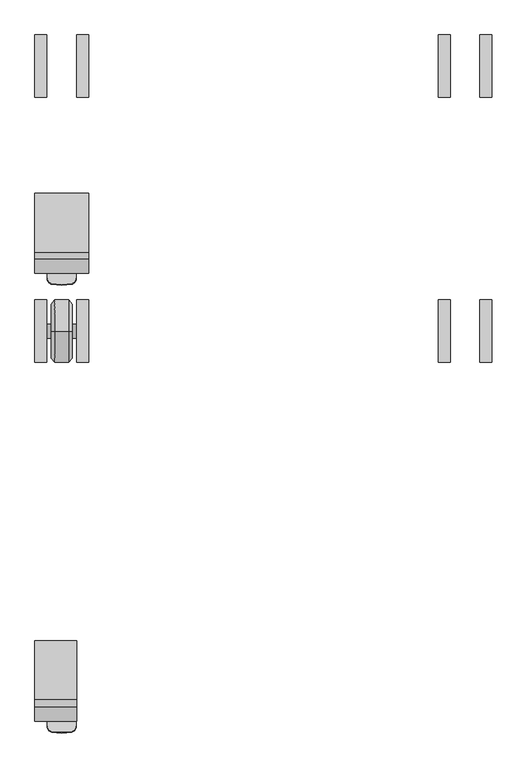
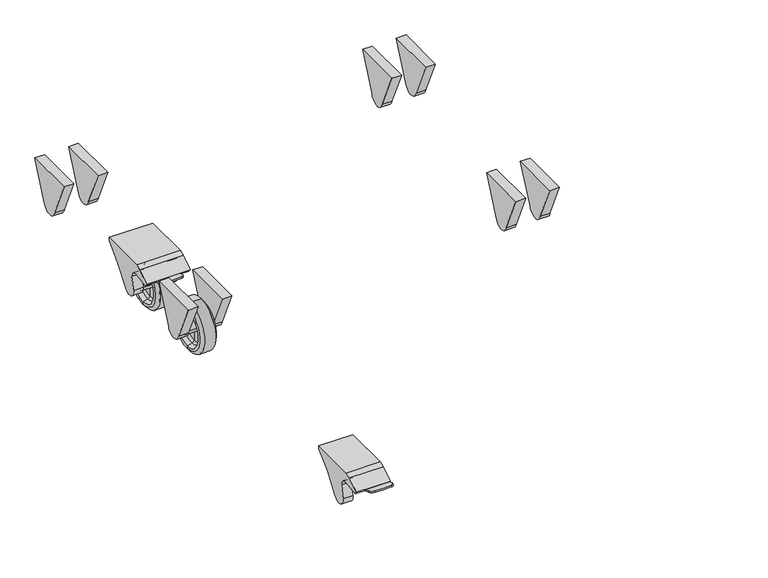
"""IFC4 building model written with IfcOpenShell, lengths in millimetres: proxy geometry, 12290890_D_APDR024 : 59520024_D_12290890_APDR024."""

from ifc_helpers import new_model, si_unit, point, frame, frame_2d, origin, place, context, project, spatial, polyline, circle_curve, trimmed, segment, composite_curve, outline, extrude, source, transform, mapped, element, save
from ifc_brep_helpers import plane_surface, cylinder_surface, revolved_surface, advanced_brep


def specialty_equipment_f7a40d9e(model_context):
    return source(origin(), model_context, "Body", "SolidModel", [
        advanced_brep(
        [(-289.9642929, -347.1593715, 51.6918031), (-289.9642929, -341.6414959, 77.0928632), (-289.9642929, -354.7414538, 90.1928212), (-289.9642929, -386.1982865, 85.2105484), (-289.9642929, -388.1697808, 88.0261341), (-289.9642929, -366.1477136, 103.4461516), (-289.9642929, -357.4336635, 106.8022751), (-289.9642929, -265.9784481, 106.8022751), (-289.9642929, -265.9784481, 103.8698945), (-289.9642929, -319.6057886, 43.2039892), (-271.3709958, -347.1593715, 51.6918031), (-271.3709958, -319.6057886, 43.2039892), (-271.3709958, -265.9784481, 103.8698945), (-271.3709958, -265.9784481, 109.7698948), (-271.3709958, -357.4336635, 109.7698948), (-271.3709958, -367.7580161, 106.5146464), (-271.3709958, -390.1412751, 90.8417198), (-271.3709958, -386.1982865, 85.2105484), (-271.3709958, -354.7414538, 90.1928212), (-271.3709958, -341.6414959, 77.0928632), (-336.0364395, -347.1593715, 51.6918031), (-336.0364395, -319.6057886, 43.2039892), (-336.0364395, -265.9784481, 103.8698945), (-336.0364395, -265.9784481, 106.8022751), (-336.0364395, -357.4336635, 106.8022751), (-336.0364395, -366.1477136, 103.4461516), (-336.0364395, -388.1697808, 88.0261341), (-336.0364395, -386.1982865, 85.2105484), (-336.0364395, -354.7414538, 90.1928212), (-336.0364395, -341.6414959, 77.0928632), (-354.6297366, -347.1593715, 51.6918031), (-354.6297366, -341.6414959, 77.0928632), (-354.6297366, -354.7414538, 90.1928212), (-354.6297366, -386.1982865, 85.2105484), (-354.6297366, -390.1412751, 90.8417198), (-354.6297366, -367.7580161, 106.5146464), (-354.6297366, -357.4336635, 109.7698948), (-354.6297366, -265.9784481, 109.7698948), (-354.6297366, -265.9784481, 103.8698945), (-354.6297366, -319.6057886, 43.2039892), (-335.625407, -388.1697808, 88.0261341), (-335.625407, -389.0890556, 89.3389944), (-290.3753254, -389.0890556, 89.3389944), (-290.3753254, -388.1697808, 88.0261341), (-290.3753254, -387.2159319, 88.6940263), (-335.625407, -387.2159319, 88.6940263), (-290.3753254, -385.1378045, 87.9784696), (-335.625407, -385.1378045, 87.9784696), (-335.625407, -397.8912563, 92.3698352), (-328.5812322, -406.1821139, 95.2246064), (-297.4195002, -406.1821139, 95.2246064), (-290.3753254, -397.8912563, 92.3698352), (-290.3753254, -386.0846805, 85.2285418), (-290.3753254, -398.8381324, 89.6199074), (-297.4195002, -407.12899, 92.4746786), (-328.5812322, -407.12899, 92.4746786), (-335.625407, -398.8381324, 89.6199074), (-335.625407, -386.0846805, 85.2285418)],
        [
            (0, 1),
            (1, 2, circle_curve(frame((-289.9642929, -354.7414538, 77.0928632), z_axis=(1.0, 0.0, 0.0), x_axis=(0.0, 1.0, 0.0)), 13.099958)),
            (2, 3),
            (3, 4),
            (4, 5),
            (5, 6),
            (6, 7),
            (7, 8),
            (8, 9, circle_curve(frame((-289.9642929, -117.0423932, -81.8219916), z_axis=(1.0, 0.0, 0.0), x_axis=(0.0, 1.0, 0.0)), 238.0408054)),
            (9, 0, circle_curve(frame((-289.9642929, -332.79453, 49.3568547), z_axis=(-1.0, 0.0, 0.0), x_axis=(0.0, 1.0, 0.0)), 14.5533726)),
            (10, 11, circle_curve(frame((-271.3709958, -332.79453, 49.3568547), z_axis=(1.0, 0.0, 0.0), x_axis=(0.0, 1.0, 0.0)), 14.5533726)),
            (11, 12, circle_curve(frame((-271.3709958, -117.0423932, -81.8219916), z_axis=(-1.0, 0.0, 0.0), x_axis=(0.0, 1.0, 0.0)), 238.0408054)),
            (12, 13),
            (13, 14),
            (14, 15),
            (15, 16),
            (16, 17),
            (17, 18),
            (18, 19, circle_curve(frame((-271.3709958, -354.7414538, 77.0928632), z_axis=(-1.0, 0.0, 0.0), x_axis=(0.0, 1.0, 0.0)), 13.099958)),
            (19, 10),
            (9, 11),
            (10, 0),
            (8, 12),
            (2, 18),
            (17, 3),
            (1, 19),
            (20, 21, circle_curve(frame((-336.0364395, -332.79453, 49.3568547), z_axis=(1.0, 0.0, 0.0), x_axis=(0.0, 1.0, 0.0)), 14.5533726)),
            (21, 22, circle_curve(frame((-336.0364395, -117.0423932, -81.8219916), z_axis=(-1.0, 0.0, 0.0), x_axis=(0.0, 1.0, 0.0)), 238.0408054)),
            (22, 23),
            (23, 24),
            (24, 25),
            (25, 26),
            (26, 27),
            (27, 28),
            (28, 29, circle_curve(frame((-336.0364395, -354.7414538, 77.0928632), z_axis=(-1.0, 0.0, 0.0), x_axis=(0.0, 1.0, 0.0)), 13.099958)),
            (29, 20),
            (30, 31),
            (31, 32, circle_curve(frame((-354.6297366, -354.7414538, 77.0928632), z_axis=(1.0, 0.0, 0.0), x_axis=(0.0, 1.0, 0.0)), 13.099958)),
            (32, 33),
            (33, 34),
            (34, 35),
            (35, 36),
            (36, 37),
            (37, 38),
            (38, 39, circle_curve(frame((-354.6297366, -117.0423932, -81.8219916), z_axis=(1.0, 0.0, 0.0), x_axis=(0.0, 1.0, 0.0)), 238.0408054)),
            (39, 30, circle_curve(frame((-354.6297366, -332.79453, 49.3568547), z_axis=(-1.0, 0.0, 0.0), x_axis=(0.0, 1.0, 0.0)), 14.5533726)),
            (20, 30),
            (39, 21),
            (38, 22),
            (37, 13),
            (7, 23),
            (36, 14),
            (35, 15),
            (34, 16),
            (33, 27),
            (26, 40),
            (40, 41),
            (41, 42),
            (42, 43),
            (43, 4),
            (32, 28),
            (31, 29),
            (25, 5),
            (43, 44),
            (44, 45),
            (45, 40),
            (24, 6),
            (46, 47),
            (47, 45),
            (44, 46),
            (48, 49, circle_curve(frame((-326.6457578, -397.8912563, 92.3698352), z_axis=(0.0, 0.3255681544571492, 0.9455185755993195), x_axis=(1.0, 0.0, 0.0)), 8.9796492)),
            (49, 50, circle_curve(frame((-313.0003662, -319.8083237, 65.4837254), z_axis=(0.0, 0.3255681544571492, 0.9455185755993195), x_axis=(1.0, 0.0, 0.0)), 92.6699251)),
            (50, 51, circle_curve(frame((-299.3549746, -397.8912563, 92.3698352), z_axis=(0.0, 0.3255681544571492, 0.9455185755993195), x_axis=(1.0, 0.0, 0.0)), 8.9796492)),
            (51, 42),
            (41, 48),
            (52, 53),
            (53, 54, circle_curve(frame((-299.3549746, -398.8381324, 89.6199074), z_axis=(0.0, -0.3255681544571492, -0.9455185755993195), x_axis=(1.0, 0.0, 0.0)), 8.9796492)),
            (54, 55, circle_curve(frame((-313.0003662, -320.7551998, 62.7337976), z_axis=(0.0, -0.3255681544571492, -0.9455185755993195), x_axis=(1.0, 0.0, 0.0)), 92.6699251)),
            (55, 56, circle_curve(frame((-326.6457578, -398.8381324, 89.6199074), z_axis=(0.0, -0.3255681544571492, -0.9455185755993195), x_axis=(1.0, 0.0, 0.0)), 8.9796492)),
            (56, 57),
            (57, 52),
            (46, 52),
            (57, 47),
            (56, 48),
            (55, 49),
            (54, 50),
            (53, 51),
        ],
        [
            plane_surface(frame((-289.9642929, -341.6414959, 77.0928632), z_axis=(-1.0, 0.0, 0.0), x_axis=(0.0, 0.21227925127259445, 0.9772090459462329))),
            plane_surface(frame((-271.3709958, -341.6414959, 77.0928632), z_axis=(1.0, 0.0, 0.0), x_axis=(0.0, -0.21227925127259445, -0.9772090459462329))),
            cylinder_surface(frame((-271.3709958, -332.79453, 49.3568547), z_axis=(-1.0, 0.0, 0.0), x_axis=(0.0, 1.0, 0.0)), 14.5533726),
            revolved_surface(polyline([(-271.3709958, 120.9984122, -81.8219916), (-289.9642929, 120.9984122, -81.8219916)]), (-271.3709958, -117.0423932, -81.8219916), (1.0, 0.0, 0.0)),
            plane_surface(frame((-289.9642929, -354.7414538, 90.1928212), z_axis=(0.0, 0.1564344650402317, -0.9876883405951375), x_axis=(1.0, 0.0, 0.0))),
            revolved_surface(polyline([(-271.3709958, -341.6414958, 77.0928632), (-289.9642929, -341.6414958, 77.0928632)]), (-271.3709958, -354.7414538, 77.0928632), (1.0, 0.0, 0.0)),
            plane_surface(frame((-289.9642929, -347.1593715, 51.6918031), z_axis=(0.0, -0.9772090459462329, 0.21227925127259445), x_axis=(1.0, 0.0, 0.0))),
            plane_surface(frame((-336.0364395, -318.2411574, 49.3568547), z_axis=(1.0, 0.0, 0.0), x_axis=(0.0, 0.0, 1.0))),
            plane_surface(frame((-354.6297366, -318.2411574, 49.3568547), z_axis=(-1.0, 0.0, 0.0), x_axis=(0.0, 0.0, -1.0))),
            cylinder_surface(frame((-354.6297366, -332.79453, 49.3568547), z_axis=(1.0, 0.0, 0.0), x_axis=(0.0, 1.0, 0.0)), 14.5533726),
            revolved_surface(polyline([(-354.6297366, 120.9984122, -81.8219916), (-336.0364395, 120.9984122, -81.8219916)]), (-354.6297366, -117.0423932, -81.8219916), (-1.0, 0.0, 0.0)),
            plane_surface(frame((-336.0364395, -265.9784481, 103.8698945), z_axis=(0.0, 1.0, 0.0), x_axis=(-1.0, 0.0, 0.0))),
            plane_surface(frame((-336.0364395, -265.9784481, 109.7698948), z_axis=(0.0, 0.0, 1.0), x_axis=(-1.0, 0.0, 0.0))),
            plane_surface(frame((-336.0364395, -357.4336635, 109.7698948), z_axis=(0.0, -0.30070516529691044, 0.9537171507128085), x_axis=(-1.0, 0.0, 0.0))),
            plane_surface(frame((-336.0364395, -367.7580161, 106.5146464), z_axis=(0.0, -0.5735764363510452, 0.8191520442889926), x_axis=(-1.0, 0.0, 0.0))),
            plane_surface(frame((-336.0364395, -390.1412751, 90.8417198), z_axis=(0.0, -0.8191520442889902, -0.5735764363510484), x_axis=(-1.0, 0.0, 0.0))),
            plane_surface(frame((-336.0364395, -386.1982865, 85.2105484), z_axis=(0.0, 0.1564344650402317, -0.9876883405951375), x_axis=(-1.0, 0.0, 0.0))),
            revolved_surface(polyline([(-354.6297366, -341.6414958, 77.0928632), (-336.0364395, -341.6414958, 77.0928632)]), (-354.6297366, -354.7414538, 77.0928632), (-1.0, 0.0, 0.0)),
            plane_surface(frame((-336.0364395, -341.6414959, 77.0928632), z_axis=(0.0, -0.977209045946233, 0.21227925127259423), x_axis=(-1.0, 0.0, 0.0))),
            plane_surface(frame((-289.9642929, -388.1697808, 88.0261341), z_axis=(0.0, 0.5735764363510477, -0.8191520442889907), x_axis=(-1.0, 0.0, 0.0))),
            plane_surface(frame((-289.9642929, -366.1477136, 103.4461516), z_axis=(0.0, 0.35940498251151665, -0.9331816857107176), x_axis=(-1.0, 0.0, 0.0))),
            plane_surface(frame((-289.9642929, -357.4336635, 106.8022751), z_axis=(0.0, 0.0, -1.0), x_axis=(-1.0, 0.0, 0.0))),
            plane_surface(frame((-335.625407, -385.1378045, 87.9784696), z_axis=(0.0, 0.3255681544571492, 0.9455185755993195), x_axis=(-1.0, 0.0, 0.0))),
            plane_surface(frame((-335.625407, -386.0846805, 85.2285418), z_axis=(0.0, -0.3255681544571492, -0.9455185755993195), x_axis=(1.0, 0.0, 0.0))),
            plane_surface(frame((-290.3753254, -385.1378045, 87.9784696), z_axis=(0.0, 0.945518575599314, -0.325568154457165), x_axis=(0.0, -0.325568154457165, -0.945518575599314))),
            plane_surface(frame((-335.625407, -385.1378045, 87.9784696), z_axis=(-1.0, 0.0, 0.0), x_axis=(0.0, -0.3255681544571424, -0.9455185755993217))),
            cylinder_surface(frame((-326.6457578, -398.8381324, 89.6199074), z_axis=(0.0, 0.3255681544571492, 0.9455185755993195), x_axis=(1.0, 0.0, 0.0)), 8.9796492),
            cylinder_surface(frame((-313.0003662, -320.7551998, 62.7337976), z_axis=(0.0, 0.3255681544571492, 0.9455185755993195), x_axis=(1.0, 0.0, 0.0)), 92.6699251),
            cylinder_surface(frame((-299.3549746, -398.8381324, 89.6199074), z_axis=(0.0, 0.3255681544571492, 0.9455185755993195), x_axis=(1.0, 0.0, 0.0)), 8.9796492),
            plane_surface(frame((-290.3753254, -397.8912563, 92.3698352), z_axis=(1.0000000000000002, 0.0, 0.0), x_axis=(0.0, -0.3255681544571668, -0.9455185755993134))),
        ],
        [
            (0, [[1, 2, 3, 4, 5, 6, 7, 8, 9, 10]]),
            (1, [[11, 12, 13, 14, 15, 16, 17, 18, 19, 20]]),
            (2, [[-10, 21, -11, 22]]),
            (3, [[-9, 23, -12, -21]]),
            (4, [[-3, 24, -18, 25]]),
            (5, [[-2, 26, -19, -24]]),
            (6, [[-1, -22, -20, -26]]),
            (7, [[27, 28, 29, 30, 31, 32, 33, 34, 35, 36]]),
            (8, [[37, 38, 39, 40, 41, 42, 43, 44, 45, 46]]),
            (9, [[-27, 47, -46, 48]]),
            (10, [[-28, -48, -45, 49]]),
            (11, [[-44, 50, -13, -23, -8, 51, -29, -49]]),
            (12, [[-43, 52, -14, -50]]),
            (13, [[-42, 53, -15, -52]]),
            (14, [[-41, 54, -16, -53]]),
            (15, [[-40, 55, -33, 56, 57, 58, 59, 60, -4, -25, -17, -54]]),
            (16, [[-34, -55, -39, 61]]),
            (17, [[-35, -61, -38, 62]]),
            (18, [[-36, -62, -37, -47]]),
            (19, [[63, -5, -60, 64, 65, 66, -56, -32]]),
            (20, [[-63, -31, 67, -6]]),
            (21, [[-67, -30, -51, -7]]),
            (22, [[68, 69, -65, 70]]),
            (22, [[71, 72, 73, 74, -58, 75]]),
            (23, [[76, 77, 78, 79, 80, 81]]),
            (24, [[-68, 82, -81, 83]]),
            (25, [[-80, 84, -75, -57, -66, -69, -83]]),
            (26, [[-71, -84, -79, 85]]),
            (27, [[-72, -85, -78, 86]]),
            (28, [[-73, -86, -77, 87]]),
            (29, [[-76, -82, -70, -64, -59, -74, -87]]),
        ],
    ),
        advanced_brep(
        [(-289.9642929, -1061.616741, 106.5146464), (-289.9642929, -1051.2923884, 109.7698948), (-354.6297366, -1051.2923884, 109.7698948), (-354.6297366, -1061.616741, 106.5146464), (-289.9642929, -1084.0, 90.8417198), (-354.6297366, -1084.0, 90.8417198), (-289.9642929, -1082.0285057, 88.0261341), (-354.6297366, -1080.0570114, 85.2105484), (-336.0364395, -1080.0570114, 85.2105484), (-336.0364395, -1082.0285057, 88.0261341), (-335.625407, -1082.0285057, 88.0261341), (-335.625407, -1082.8053397, 89.135568), (-290.3753254, -1082.8053397, 89.135568), (-290.3753254, -1082.0285057, 88.0261341), (-289.9642929, -1060.0064384, 103.4461516), (-290.3753254, -1081.2224547, 88.590537), (-335.625407, -1081.2224547, 88.590537), (-336.0364395, -1060.0064384, 103.4461516), (-289.9642929, -1051.2923884, 106.8022751), (-336.0364395, -1051.2923884, 106.8022751), (-289.9642929, -959.8371729, 106.8022751), (-336.0364395, -959.8371729, 106.8022751), (-289.9642929, -959.8371729, 109.7698948), (-336.0364395, -959.8371729, 103.8698945), (-354.6297366, -959.8371729, 103.8698945), (-354.6297366, -959.8371729, 109.7698948), (-290.3753254, -1079.4448819, 87.9784696), (-335.625407, -1079.4448819, 87.9784696), (-335.625407, -1092.1983337, 92.3698352), (-328.5812322, -1100.4891913, 95.2246064), (-297.4195002, -1100.4891913, 95.2246064), (-290.3753254, -1092.1983337, 92.3698352), (-290.3753254, -1080.3917579, 85.2285418), (-290.3753254, -1093.1452098, 89.6199074), (-297.4195002, -1101.4360674, 92.4746786), (-328.5812322, -1101.4360674, 92.4746786), (-335.625407, -1093.1452098, 89.6199074), (-335.625407, -1080.3917579, 85.2285418), (-336.0364395, -1041.0180964, 51.6918031), (-336.0364395, -1013.4645134, 43.2039892), (-336.0364395, -1048.6001787, 90.1928212), (-336.0364395, -1035.5002207, 77.0928632), (-354.6297366, -1041.0180964, 51.6918031), (-354.6297366, -1035.5002207, 77.0928632), (-354.6297366, -1048.6001787, 90.1928212), (-354.6297366, -1013.4645134, 43.2039892)],
        [
            (0, 1),
            (1, 2),
            (2, 3),
            (3, 0),
            (4, 0),
            (3, 5),
            (5, 4),
            (6, 4),
            (5, 7),
            (7, 8),
            (8, 9),
            (9, 10),
            (10, 11),
            (11, 12),
            (12, 13),
            (13, 6),
            (14, 6),
            (13, 15),
            (15, 16),
            (16, 10),
            (9, 17),
            (17, 14),
            (18, 14),
            (17, 19),
            (19, 18),
            (20, 18),
            (19, 21),
            (21, 20),
            (22, 20),
            (21, 23),
            (23, 24),
            (24, 25),
            (25, 22),
            (1, 22),
            (25, 2),
            (26, 27),
            (27, 16),
            (15, 26),
            (28, 29, circle_curve(frame((-326.6457578, -1092.1983337, 92.3698352), z_axis=(0.0, 0.3255681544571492, 0.9455185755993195), x_axis=(1.0, 0.0, 0.0)), 8.9796492)),
            (29, 30, circle_curve(frame((-313.0003662, -1014.1154011, 65.4837254), z_axis=(0.0, 0.3255681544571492, 0.9455185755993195), x_axis=(1.0, 0.0, 0.0)), 92.6699251)),
            (30, 31, circle_curve(frame((-299.3549746, -1092.1983337, 92.3698352), z_axis=(0.0, 0.3255681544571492, 0.9455185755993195), x_axis=(1.0, 0.0, 0.0)), 8.9796492)),
            (31, 12),
            (11, 28),
            (32, 33),
            (33, 34, circle_curve(frame((-299.3549746, -1093.1452098, 89.6199074), z_axis=(0.0, -0.3255681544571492, -0.9455185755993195), x_axis=(1.0, 0.0, 0.0)), 8.9796492)),
            (34, 35, circle_curve(frame((-313.0003662, -1015.0622772, 62.7337976), z_axis=(0.0, -0.3255681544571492, -0.9455185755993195), x_axis=(1.0, 0.0, 0.0)), 92.6699251)),
            (35, 36, circle_curve(frame((-326.6457578, -1093.1452098, 89.6199074), z_axis=(0.0, -0.3255681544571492, -0.9455185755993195), x_axis=(1.0, 0.0, 0.0)), 8.9796492)),
            (36, 37),
            (37, 32),
            (26, 32),
            (37, 27),
            (36, 28),
            (35, 29),
            (34, 30),
            (33, 31),
            (38, 39, circle_curve(frame((-336.0364395, -1026.6532549, 49.3568547), z_axis=(1.0, 0.0, 0.0), x_axis=(0.0, 1.0, 0.0)), 14.5533726)),
            (39, 23, circle_curve(frame((-336.0364395, -810.9011181, -81.8219916), z_axis=(-1.0, 0.0, 0.0), x_axis=(0.0, 1.0, 0.0)), 238.0408054)),
            (8, 40),
            (40, 41, circle_curve(frame((-336.0364395, -1048.6001787, 77.0928632), z_axis=(-1.0, 0.0, 0.0), x_axis=(0.0, 1.0, 0.0)), 13.099958)),
            (41, 38),
            (42, 43),
            (43, 44, circle_curve(frame((-354.6297366, -1048.6001787, 77.0928632), z_axis=(1.0, 0.0, 0.0), x_axis=(0.0, 1.0, 0.0)), 13.099958)),
            (44, 7),
            (24, 45, circle_curve(frame((-354.6297366, -810.9011181, -81.8219916), z_axis=(1.0, 0.0, 0.0), x_axis=(0.0, 1.0, 0.0)), 238.0408054)),
            (45, 42, circle_curve(frame((-354.6297366, -1026.6532549, 49.3568547), z_axis=(-1.0, 0.0, 0.0), x_axis=(0.0, 1.0, 0.0)), 14.5533726)),
            (38, 42),
            (45, 39),
            (44, 40),
            (43, 41),
        ],
        [
            plane_surface(frame((-289.9642929, -1051.2923884, 109.7698948), z_axis=(0.0, -0.3007051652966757, 0.9537171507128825), x_axis=(-1.0, 0.0, 0.0))),
            plane_surface(frame((-289.9642929, -1061.616741, 106.5146464), z_axis=(0.0, -0.5735764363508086, 0.8191520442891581), x_axis=(-1.0, 0.0, 0.0))),
            plane_surface(frame((-289.9642929, -1084.0, 90.8417198), z_axis=(0.0, -0.8191520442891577, -0.5735764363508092), x_axis=(-1.0, 0.0, 0.0))),
            plane_surface(frame((-289.9642929, -1082.0285057, 88.0261341), z_axis=(0.0, 0.5735764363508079, -0.8191520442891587), x_axis=(-1.0, 0.0, 0.0))),
            plane_surface(frame((-289.9642929, -1060.0064384, 103.4461516), z_axis=(0.0, 0.35940498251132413, -0.9331816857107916), x_axis=(-1.0, 0.0, 0.0))),
            plane_surface(frame((-289.9642929, -1051.2923884, 106.8022751), z_axis=(0.0, 0.0, -1.0), x_axis=(-1.0, 0.0, 0.0))),
            plane_surface(frame((-289.9642929, -959.8371729, 106.8022751), z_axis=(0.0, 1.0, 0.0), x_axis=(-1.0, 0.0, 0.0))),
            plane_surface(frame((-289.9642929, -959.8371729, 109.7698948), z_axis=(0.0, 0.0, 1.0), x_axis=(-1.0, 0.0, 0.0))),
            plane_surface(frame((-335.625407, -1079.4448819, 87.9784696), z_axis=(0.0, 0.3255681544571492, 0.9455185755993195), x_axis=(-1.0, 0.0, 0.0))),
            plane_surface(frame((-335.625407, -1080.3917579, 85.2285418), z_axis=(0.0, -0.3255681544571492, -0.9455185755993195), x_axis=(1.0, 0.0, 0.0))),
            plane_surface(frame((-290.3753254, -1079.4448819, 87.9784696), z_axis=(0.0, 0.9455185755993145, -0.3255681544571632), x_axis=(0.0, -0.3255681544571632, -0.9455185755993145))),
            plane_surface(frame((-335.625407, -1079.4448819, 87.9784696), z_axis=(-1.0, 0.0, 0.0), x_axis=(0.0, -0.3255681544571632, -0.9455185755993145))),
            cylinder_surface(frame((-326.6457578, -1093.1452098, 89.6199074), z_axis=(0.0, 0.3255681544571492, 0.9455185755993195), x_axis=(1.0, 0.0, 0.0)), 8.9796492),
            cylinder_surface(frame((-313.0003662, -1015.0622772, 62.7337976), z_axis=(0.0, 0.3255681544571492, 0.9455185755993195), x_axis=(1.0, 0.0, 0.0)), 92.6699251),
            cylinder_surface(frame((-299.3549746, -1093.1452098, 89.6199074), z_axis=(0.0, 0.3255681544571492, 0.9455185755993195), x_axis=(1.0, 0.0, 0.0)), 8.9796492),
            plane_surface(frame((-290.3753254, -1092.1983337, 92.3698352), z_axis=(1.0, 0.0, 0.0), x_axis=(0.0, -0.3255681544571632, -0.9455185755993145))),
            plane_surface(frame((-289.9642929, -1051.2923884, 109.7698948), z_axis=(1.0000000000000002, 0.0, 0.0), x_axis=(0.0, -0.9537171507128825, -0.3007051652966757))),
            plane_surface(frame((-336.0364395, -1012.0998822, 49.3568547), z_axis=(1.0, 0.0, 0.0), x_axis=(0.0, 0.0, 1.0))),
            plane_surface(frame((-354.6297366, -1012.0998822, 49.3568547), z_axis=(-1.0, 0.0, 0.0), x_axis=(0.0, 0.0, -1.0))),
            cylinder_surface(frame((-354.6297366, -1026.6532549, 49.3568547), z_axis=(1.0, 0.0, 0.0), x_axis=(0.0, 1.0, 0.0)), 14.5533726),
            revolved_surface(polyline([(-354.6297366, -572.8603126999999, -81.8219916), (-336.0364395, -572.8603126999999, -81.8219916)]), (-354.6297366, -810.9011181, -81.8219916), (-1.0, 0.0, 0.0)),
            plane_surface(frame((-336.0364395, -1080.0570114, 85.2105484), z_axis=(0.0, 0.15643446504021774, -0.9876883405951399), x_axis=(-1.0, 0.0, 0.0))),
            revolved_surface(polyline([(-354.6297366, -1035.5002207, 77.0928632), (-336.0364395, -1035.5002207, 77.0928632)]), (-354.6297366, -1048.6001787, 77.0928632), (-1.0, 0.0, 0.0)),
            plane_surface(frame((-336.0364395, -1035.5002207, 77.0928632), z_axis=(0.0, -0.9772090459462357, 0.21227925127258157), x_axis=(-1.0, 0.0, 0.0))),
        ],
        [
            (0, [[1, 2, 3, 4]]),
            (1, [[5, -4, 6, 7]]),
            (2, [[8, -7, 9, 10, 11, 12, 13, 14, 15, 16]]),
            (3, [[17, -16, 18, 19, 20, -12, 21, 22]]),
            (4, [[23, -22, 24, 25]]),
            (5, [[26, -25, 27, 28]]),
            (6, [[29, -28, 30, 31, 32, 33]]),
            (7, [[-2, 34, -33, 35]]),
            (8, [[36, 37, -19, 38]]),
            (8, [[39, 40, 41, 42, -14, 43]]),
            (9, [[44, 45, 46, 47, 48, 49]]),
            (10, [[-36, 50, -49, 51]]),
            (11, [[-48, 52, -43, -13, -20, -37, -51]]),
            (12, [[-39, -52, -47, 53]]),
            (13, [[-40, -53, -46, 54]]),
            (14, [[-41, -54, -45, 55]]),
            (15, [[-44, -50, -38, -18, -15, -42, -55]]),
            (16, [[-1, -5, -8, -17, -23, -26, -29, -34]]),
            (17, [[56, 57, -30, -27, -24, -21, -11, 58, 59, 60]]),
            (18, [[61, 62, 63, -9, -6, -3, -35, -32, 64, 65]]),
            (19, [[-56, 66, -65, 67]]),
            (20, [[-57, -67, -64, -31]]),
            (21, [[-58, -10, -63, 68]]),
            (22, [[-59, -68, -62, 69]]),
            (23, [[-60, -69, -61, -66]]),
        ],
    ),
        extrude(outline(composite_curve([segment(polyline([(-20.5210119, 121.7198946), (-52.2000891, 50.2189562)]), True, "CONTINUOUS"), segment(trimmed(circle_curve(frame_2d((-68.9870197, 53.7890648)), 17.1623633), [point((-52.2000891, 50.2189562))], [point((-85.7739503, 50.2189562))], False, "CARTESIAN"), True, "CONTINUOUS"), segment(polyline([(-85.7739503, 50.2189562), (-117.4530274, 121.7198946), (-20.5210119, 121.7198946)]), True, "CONTINUOUS")], self_intersect=False)), frame((271.3709958, 0.0, 0.0), z_axis=(1.0, 0.0, 0.0), x_axis=(0.0, 1.0, 0.0)), (0.0, 0.0, 1.0), 18.5932971),
        extrude(outline(composite_curve([segment(polyline([(-20.5210119, 121.7198946), (-52.2000891, 50.2189562)]), True, "CONTINUOUS"), segment(trimmed(circle_curve(frame_2d((-68.9870197, 53.7890648)), 17.1623633), [point((-52.2000891, 50.2189562))], [point((-85.7739503, 50.2189562))], False, "CARTESIAN"), True, "CONTINUOUS"), segment(polyline([(-85.7739503, 50.2189562), (-117.4530274, 121.7198946), (-20.5210119, 121.7198946)]), True, "CONTINUOUS")], self_intersect=False)), frame((-289.9642929, 0.0, 0.0), z_axis=(1.0, 0.0, 0.0), x_axis=(0.0, 1.0, 0.0)), (0.0, 0.0, 1.0), 18.5932971),
        extrude(outline(composite_curve([segment(polyline([(-20.5210119, 121.7198946), (-52.2000891, 50.2189562)]), True, "CONTINUOUS"), segment(trimmed(circle_curve(frame_2d((-68.9870197, 53.7890648)), 17.1623633), [point((-52.2000891, 50.2189562))], [point((-85.7739503, 50.2189562))], False, "CARTESIAN"), True, "CONTINUOUS"), segment(polyline([(-85.7739503, 50.2189562), (-117.4530274, 121.7198946), (-20.5210119, 121.7198946)]), True, "CONTINUOUS")], self_intersect=False)), frame((-354.6297366, 0.0, 0.0), z_axis=(1.0, 0.0, 0.0), x_axis=(0.0, 1.0, 0.0)), (0.0, 0.0, 1.0), 18.5932971),
        extrude(outline(composite_curve([segment(polyline([(-20.5210119, 121.7198946), (-52.2000891, 50.2189562)]), True, "CONTINUOUS"), segment(trimmed(circle_curve(frame_2d((-68.9870197, 53.7890648)), 17.1623633), [point((-52.2000891, 50.2189562))], [point((-85.7739503, 50.2189562))], False, "CARTESIAN"), True, "CONTINUOUS"), segment(polyline([(-85.7739503, 50.2189562), (-117.4530274, 121.7198946), (-20.5210119, 121.7198946)]), True, "CONTINUOUS")], self_intersect=False)), frame((336.0364395, 0.0, 0.0), z_axis=(1.0, 0.0, 0.0), x_axis=(0.0, 1.0, 0.0)), (0.0, 0.0, 1.0), 18.5932971),
        extrude(outline(composite_curve([segment(polyline([(-431.2021398, 121.7198946), (-462.8812169, 50.2189562)]), True, "CONTINUOUS"), segment(trimmed(circle_curve(frame_2d((-479.6681475, 53.7890648)), 17.1623633), [point((-462.8812169, 50.2189562))], [point((-496.4550781, 50.2189562))], False, "CARTESIAN"), True, "CONTINUOUS"), segment(polyline([(-496.4550781, 50.2189562), (-528.1341553, 121.7198946), (-431.2021398, 121.7198946)]), True, "CONTINUOUS")], self_intersect=False)), frame((271.3709958, 0.0, 0.0), z_axis=(1.0, 0.0, 0.0), x_axis=(0.0, 1.0, 0.0)), (0.0, 0.0, 1.0), 18.5932971),
        extrude(outline(composite_curve([segment(polyline([(-431.2021398, 121.7198946), (-462.8812169, 50.2189562)]), True, "CONTINUOUS"), segment(trimmed(circle_curve(frame_2d((-479.6681475, 53.7890648)), 17.1623633), [point((-462.8812169, 50.2189562))], [point((-496.4550781, 50.2189562))], False, "CARTESIAN"), True, "CONTINUOUS"), segment(polyline([(-496.4550781, 50.2189562), (-528.1341553, 121.7198946), (-431.2021398, 121.7198946)]), True, "CONTINUOUS")], self_intersect=False)), frame((-289.9642929, 0.0, 0.0), z_axis=(1.0, 0.0, 0.0), x_axis=(0.0, 1.0, 0.0)), (0.0, 0.0, 1.0), 18.5932971),
        extrude(outline(composite_curve([segment(polyline([(-431.2021398, 121.7198946), (-462.8812169, 50.2189562)]), True, "CONTINUOUS"), segment(trimmed(circle_curve(frame_2d((-479.6681475, 53.7890648)), 17.1623633), [point((-462.8812169, 50.2189562))], [point((-496.4550781, 50.2189562))], False, "CARTESIAN"), True, "CONTINUOUS"), segment(polyline([(-496.4550781, 50.2189562), (-528.1341553, 121.7198946), (-431.2021398, 121.7198946)]), True, "CONTINUOUS")], self_intersect=False)), frame((-354.6297366, 0.0, 0.0), z_axis=(1.0, 0.0, 0.0), x_axis=(0.0, 1.0, 0.0)), (0.0, 0.0, 1.0), 18.5932971),
        extrude(outline(composite_curve([segment(polyline([(-431.2021398, 121.7198946), (-462.8812169, 50.2189562)]), True, "CONTINUOUS"), segment(trimmed(circle_curve(frame_2d((-479.6681475, 53.7890648)), 17.1623633), [point((-462.8812169, 50.2189562))], [point((-496.4550781, 50.2189562))], False, "CARTESIAN"), True, "CONTINUOUS"), segment(polyline([(-496.4550781, 50.2189562), (-528.1341553, 121.7198946), (-431.2021398, 121.7198946)]), True, "CONTINUOUS")], self_intersect=False)), frame((336.0364395, 0.0, 0.0), z_axis=(1.0, 0.0, 0.0), x_axis=(0.0, 1.0, 0.0)), (0.0, 0.0, 1.0), 18.5932971),
        advanced_brep(
        [(-336.0364395, -343.78537, 48.7198946), (-336.0364395, -322.1851503, 48.7198946), (-289.9642929, -343.78537, 48.7198946), (-289.9642929, -322.1851503, 48.7198946), (-315.5003662, -322.1851503, 48.7198946), (-315.5003662, -332.9852602, 37.9197847), (-315.5003662, -343.78537, 48.7198946), (-310.5038522, -343.78537, 48.7198946), (-310.5038522, -332.9852602, 37.9197847), (-310.5038522, -322.1851503, 48.7198946), (-315.5003662, -332.9852602, 59.5200044), (-310.5038522, -332.9852602, 59.5200044), (-315.5003662, -332.9852602, 18.2503393), (-315.5003662, -332.9852602, 79.3683737), (-319.3935864, -332.9852602, 83.2615938), (-319.3935864, -332.9852602, 14.3571192), (-329.0003662, -332.9852602, 11.9829281), (-329.0003662, -332.9852602, 85.635785), (-329.0003662, -332.9852602, 90.7395323), (-329.0003662, -332.9852602, 6.8791807), (-323.6582031, -332.9852602, 97.5403698), (-323.6582031, -332.9852602, 0.0783432), (-302.3460153, -332.9852602, 97.5403698), (-302.3460153, -332.9852602, 0.0783432), (-297.0038522, -332.9852602, 90.7395323), (-297.0038522, -332.9852602, 6.8791807), (-297.0038522, -332.9852602, 85.635785), (-297.0038522, -332.9852602, 11.9829281), (-310.5038522, -332.9852602, 18.2503393), (-310.5038522, -332.9852602, 79.3683737), (-306.6106321, -332.9852602, 83.2615938), (-306.6106321, -332.9852602, 14.3571192)],
        [
            (0, 1, circle_curve(frame((-336.0364395, -332.9852602, 48.7198946), z_axis=(-1.0, 0.0, 0.0), x_axis=(0.0, 1.0, 0.0)), 10.8001099)),
            (1, 0, circle_curve(frame((-336.0364395, -332.9852602, 48.7198946), z_axis=(-1.0, 0.0, 0.0), x_axis=(0.0, 1.0, 0.0)), 10.8001099)),
            (2, 3, circle_curve(frame((-289.9642929, -332.9852602, 48.7198946), z_axis=(1.0, 0.0, 0.0), x_axis=(0.0, 1.0, 0.0)), 10.8001099)),
            (3, 2, circle_curve(frame((-289.9642929, -332.9852602, 48.7198946), z_axis=(1.0, 0.0, 0.0), x_axis=(0.0, 1.0, 0.0)), 10.8001099)),
            (1, 4),
            (4, 5, circle_curve(frame((-315.5003662, -332.9852602, 48.7198946), z_axis=(-1.0, 0.0, 0.0), x_axis=(0.0, 1.0, 0.0)), 10.8001099)),
            (5, 6, circle_curve(frame((-315.5003662, -332.9852602, 48.7198946), z_axis=(-1.0, 0.0, 0.0), x_axis=(0.0, 1.0, 0.0)), 10.8001099)),
            (6, 0),
            (2, 7),
            (7, 8, circle_curve(frame((-310.5038522, -332.9852602, 48.7198946), z_axis=(1.0, 0.0, 0.0), x_axis=(0.0, 1.0, 0.0)), 10.8001099)),
            (8, 9, circle_curve(frame((-310.5038522, -332.9852602, 48.7198946), z_axis=(1.0, 0.0, 0.0), x_axis=(0.0, 1.0, 0.0)), 10.8001099)),
            (9, 3),
            (6, 10, circle_curve(frame((-315.5003662, -332.9852602, 48.7198946), z_axis=(-1.0, 0.0, 0.0), x_axis=(0.0, 1.0, 0.0)), 10.8001099)),
            (10, 4, circle_curve(frame((-315.5003662, -332.9852602, 48.7198946), z_axis=(-1.0, 0.0, 0.0), x_axis=(0.0, 1.0, 0.0)), 10.8001099)),
            (9, 11, circle_curve(frame((-310.5038522, -332.9852602, 48.7198946), z_axis=(1.0, 0.0, 0.0), x_axis=(0.0, 1.0, 0.0)), 10.8001099)),
            (11, 7, circle_curve(frame((-310.5038522, -332.9852602, 48.7198946), z_axis=(1.0, 0.0, 0.0), x_axis=(0.0, 1.0, 0.0)), 10.8001099)),
            (12, 13, circle_curve(frame((-315.5003662, -332.9852602, 48.8093565), z_axis=(1.0, 0.0, 0.0), x_axis=(0.0, 0.0, 1.0)), 30.5590172)),
            (13, 14),
            (14, 15, circle_curve(frame((-319.3935864, -332.9852602, 48.8093565), z_axis=(-1.0, 0.0, 0.0), x_axis=(0.0, 0.0, 1.0)), 34.4522373)),
            (15, 12),
            (13, 12, circle_curve(frame((-315.5003662, -332.9852602, 48.8093565), z_axis=(1.0, 0.0, 0.0), x_axis=(0.0, 0.0, 1.0)), 30.5590172)),
            (15, 14, circle_curve(frame((-319.3935864, -332.9852602, 48.8093565), z_axis=(-1.0, 0.0, 0.0), x_axis=(0.0, 0.0, 1.0)), 34.4522373)),
            (16, 17, circle_curve(frame((-329.0003662, -332.9852602, 48.8093565), z_axis=(1.0, 0.0, 0.0), x_axis=(0.0, 0.0, 1.0)), 36.8264284)),
            (17, 18),
            (18, 19, circle_curve(frame((-329.0003662, -332.9852602, 48.8093565), z_axis=(-1.0, 0.0, 0.0), x_axis=(0.0, 0.0, 1.0)), 41.9301758)),
            (19, 16),
            (17, 16, circle_curve(frame((-329.0003662, -332.9852602, 48.8093565), z_axis=(1.0, 0.0, 0.0), x_axis=(0.0, 0.0, 1.0)), 36.8264284)),
            (19, 18, circle_curve(frame((-329.0003662, -332.9852602, 48.8093565), z_axis=(-1.0, 0.0, 0.0), x_axis=(0.0, 0.0, 1.0)), 41.9301758)),
            (18, 20),
            (20, 21, circle_curve(frame((-323.6582031, -332.9852602, 48.8093565), z_axis=(-1.0, 0.0, 0.0), x_axis=(0.0, 0.0, 1.0)), 48.7310133)),
            (21, 19),
            (21, 20, circle_curve(frame((-323.6582031, -332.9852602, 48.8093565), z_axis=(-1.0, 0.0, 0.0), x_axis=(0.0, 0.0, 1.0)), 48.7310133)),
            (20, 22),
            (22, 23, circle_curve(frame((-302.3460153, -332.9852602, 48.8093565), z_axis=(-1.0, 0.0, 0.0), x_axis=(0.0, 0.0, 1.0)), 48.7310133)),
            (23, 21),
            (23, 22, circle_curve(frame((-302.3460153, -332.9852602, 48.8093565), z_axis=(-1.0, 0.0, 0.0), x_axis=(0.0, 0.0, 1.0)), 48.7310133)),
            (22, 24),
            (24, 25, circle_curve(frame((-297.0038522, -332.9852602, 48.8093565), z_axis=(-1.0, 0.0, 0.0), x_axis=(0.0, 0.0, 1.0)), 41.9301758)),
            (25, 23),
            (25, 24, circle_curve(frame((-297.0038522, -332.9852602, 48.8093565), z_axis=(-1.0, 0.0, 0.0), x_axis=(0.0, 0.0, 1.0)), 41.9301758)),
            (24, 26),
            (26, 27, circle_curve(frame((-297.0038522, -332.9852602, 48.8093565), z_axis=(-1.0, 0.0, 0.0), x_axis=(0.0, 0.0, 1.0)), 36.8264284)),
            (27, 25),
            (27, 26, circle_curve(frame((-297.0038522, -332.9852602, 48.8093565), z_axis=(-1.0, 0.0, 0.0), x_axis=(0.0, 0.0, 1.0)), 36.8264284)),
            (28, 29, circle_curve(frame((-310.5038522, -332.9852602, 48.8093565), z_axis=(1.0, 0.0, 0.0), x_axis=(0.0, 0.0, 1.0)), 30.5590172)),
            (29, 11),
            (8, 28),
            (29, 28, circle_curve(frame((-310.5038522, -332.9852602, 48.8093565), z_axis=(1.0, 0.0, 0.0), x_axis=(0.0, 0.0, 1.0)), 30.5590172)),
            (12, 5),
            (10, 13),
            (14, 17),
            (16, 15),
            (26, 30),
            (30, 31, circle_curve(frame((-306.6106321, -332.9852602, 48.8093565), z_axis=(-1.0, 0.0, 0.0), x_axis=(0.0, 0.0, 1.0)), 34.4522373)),
            (31, 27),
            (31, 30, circle_curve(frame((-306.6106321, -332.9852602, 48.8093565), z_axis=(-1.0, 0.0, 0.0), x_axis=(0.0, 0.0, 1.0)), 34.4522373)),
            (28, 31),
            (30, 29),
        ],
        [
            plane_surface(frame((-336.0364395, -322.1851503, 48.7198946), z_axis=(-1.0, 0.0, 0.0), x_axis=(0.0, 0.0, -1.0))),
            plane_surface(frame((-289.9642929, -322.1851503, 48.7198946), z_axis=(1.0, 0.0, 0.0), x_axis=(0.0, 0.0, 1.0))),
            cylinder_surface(frame((-289.9642929, -332.9852602, 48.7198946), z_axis=(-1.0, 0.0, 0.0), x_axis=(0.0, 1.0, 0.0)), 10.8001099),
            revolved_surface(polyline([(-319.3935864, -332.9852602, 83.2615938), (-315.5003662, -332.9852602, 79.3683737)]), (-291.9215088, -332.9852602, 48.8093565), (-1.0, 0.0, 0.0)),
            plane_surface(frame((-329.0003662, -332.9852602, 48.8093565), z_axis=(-1.0, 0.0, 0.0), x_axis=(0.0, 0.0, 1.0))),
            revolved_surface(polyline([(-323.6582031, -332.9852602, 97.5403698), (-329.0003662, -332.9852602, 90.7395323)]), (-291.9215088, -332.9852602, 48.8093565), (-1.0, 0.0, 0.0)),
            cylinder_surface(frame((-291.9215088, -332.9852602, 48.8093565), z_axis=(-1.0, 0.0, 0.0), x_axis=(0.0, 0.0, 1.0)), 48.7310133),
            revolved_surface(polyline([(-297.0038522, -332.9852602, 90.7395323), (-302.3460153, -332.9852602, 97.5403698)]), (-291.9215088, -332.9852602, 48.8093565), (-1.0, 0.0, 0.0)),
            plane_surface(frame((-297.0038522, -332.9852602, 48.8093565), z_axis=(1.0, 0.0, 0.0), x_axis=(0.0, 0.0, 1.0))),
            plane_surface(frame((-310.5038522, -332.9852602, 48.8093565), z_axis=(1.0, 0.0, 0.0), x_axis=(0.0, 0.0, 1.0))),
            plane_surface(frame((-315.5003662, -332.9852602, 48.8093565), z_axis=(-1.0, 0.0, 0.0), x_axis=(0.0, 0.0, 1.0))),
            revolved_surface(polyline([(-329.0003662, -332.9852602, 85.635785), (-319.3935864, -332.9852602, 83.2615938)]), (-291.9215088, -332.9852602, 48.8093565), (-1.0, 0.0, 0.0)),
            revolved_surface(polyline([(-306.6106321, -332.9852602, 83.2615938), (-297.0038522, -332.9852602, 85.635785)]), (-291.9215088, -332.9852602, 48.8093565), (-1.0, 0.0, 0.0)),
            revolved_surface(polyline([(-310.5038522, -332.9852602, 79.3683737), (-306.6106321, -332.9852602, 83.2615938)]), (-291.9215088, -332.9852602, 48.8093565), (-1.0, 0.0, 0.0)),
        ],
        [
            (0, [[1, 2]]),
            (1, [[3, 4]]),
            (2, [[-2, 5, 6, 7, 8]]),
            (2, [[-3, 9, 10, 11, 12]]),
            (2, [[-1, -8, 13, 14, -5]]),
            (2, [[-4, -12, 15, 16, -9]]),
            (3, [[17, 18, 19, 20]]),
            (3, [[-18, 21, -20, 22]]),
            (4, [[23, 24, 25, 26]]),
            (4, [[-24, 27, -26, 28]]),
            (5, [[-25, 29, 30, 31]]),
            (5, [[-28, -31, 32, -29]]),
            (6, [[-30, 33, 34, 35]]),
            (6, [[-32, -35, 36, -33]]),
            (7, [[-34, 37, 38, 39]]),
            (7, [[-36, -39, 40, -37]]),
            (8, [[-38, 41, 42, 43]]),
            (8, [[-40, -43, 44, -41]]),
            (9, [[45, 46, -15, -11, 47]]),
            (9, [[48, -47, -10, -16, -46]]),
            (10, [[-17, 49, -6, -14, 50]]),
            (10, [[-21, -50, -13, -7, -49]]),
            (11, [[-19, 51, -23, 52]]),
            (11, [[-22, -52, -27, -51]]),
            (12, [[-42, 53, 54, 55]]),
            (12, [[-44, -55, 56, -53]]),
            (13, [[-45, 57, -54, 58]]),
            (13, [[-48, -58, -56, -57]]),
        ],
    ),
        advanced_brep(
        [(-336.0364395, -490.5038817, 48.7198946), (-336.0364395, -468.903662, 48.7198946), (-289.9642929, -490.5038817, 48.7198946), (-289.9642929, -468.903662, 48.7198946), (-315.5003662, -468.903662, 48.7198946), (-315.5003662, -479.7037719, 37.9197847), (-315.5003662, -490.5038817, 48.7198946), (-310.5038522, -490.5038817, 48.7198946), (-310.5038522, -479.7037719, 37.9197847), (-310.5038522, -468.903662, 48.7198946), (-315.5003662, -479.7037719, 59.5200044), (-310.5038522, -479.7037719, 59.5200044), (-315.5003662, -479.7037719, 18.1495325), (-315.5003662, -479.7037719, 79.2675668), (-319.3935864, -479.7037719, 83.160787), (-319.3935864, -479.7037719, 14.2563123), (-329.0003662, -479.7037719, 11.8821212), (-329.0003662, -479.7037719, 85.5349781), (-329.0003662, -479.7037719, 90.6387254), (-329.0003662, -479.7037719, 6.7783739), (-323.6582031, -479.7037719, 97.439563), (-323.6582031, -479.7037719, -0.0224636), (-302.3460153, -479.7037719, 97.439563), (-302.3460153, -479.7037719, -0.0224636), (-297.0038522, -479.7037719, 90.6387254), (-297.0038522, -479.7037719, 6.7783739), (-297.0038522, -479.7037719, 85.5349781), (-297.0038522, -479.7037719, 11.8821212), (-310.5038522, -479.7037719, 18.1495325), (-310.5038522, -479.7037719, 79.2675668), (-306.6106321, -479.7037719, 83.160787), (-306.6106321, -479.7037719, 14.2563123)],
        [
            (0, 1, circle_curve(frame((-336.0364395, -479.7037719, 48.7198946), z_axis=(-1.0, 0.0, 0.0), x_axis=(0.0, 1.0, 0.0)), 10.8001099)),
            (1, 0, circle_curve(frame((-336.0364395, -479.7037719, 48.7198946), z_axis=(-1.0, 0.0, 0.0), x_axis=(0.0, 1.0, 0.0)), 10.8001099)),
            (2, 3, circle_curve(frame((-289.9642929, -479.7037719, 48.7198946), z_axis=(1.0, 0.0, 0.0), x_axis=(0.0, 1.0, 0.0)), 10.8001099)),
            (3, 2, circle_curve(frame((-289.9642929, -479.7037719, 48.7198946), z_axis=(1.0, 0.0, 0.0), x_axis=(0.0, 1.0, 0.0)), 10.8001099)),
            (1, 4),
            (4, 5, circle_curve(frame((-315.5003662, -479.7037719, 48.7198946), z_axis=(-1.0, 0.0, 0.0), x_axis=(0.0, 1.0, 0.0)), 10.8001099)),
            (5, 6, circle_curve(frame((-315.5003662, -479.7037719, 48.7198946), z_axis=(-1.0, 0.0, 0.0), x_axis=(0.0, 1.0, 0.0)), 10.8001099)),
            (6, 0),
            (2, 7),
            (7, 8, circle_curve(frame((-310.5038522, -479.7037719, 48.7198946), z_axis=(1.0, 0.0, 0.0), x_axis=(0.0, 1.0, 0.0)), 10.8001099)),
            (8, 9, circle_curve(frame((-310.5038522, -479.7037719, 48.7198946), z_axis=(1.0, 0.0, 0.0), x_axis=(0.0, 1.0, 0.0)), 10.8001099)),
            (9, 3),
            (6, 10, circle_curve(frame((-315.5003662, -479.7037719, 48.7198946), z_axis=(-1.0, 0.0, 0.0), x_axis=(0.0, 1.0, 0.0)), 10.8001099)),
            (10, 4, circle_curve(frame((-315.5003662, -479.7037719, 48.7198946), z_axis=(-1.0, 0.0, 0.0), x_axis=(0.0, 1.0, 0.0)), 10.8001099)),
            (9, 11, circle_curve(frame((-310.5038522, -479.7037719, 48.7198946), z_axis=(1.0, 0.0, 0.0), x_axis=(0.0, 1.0, 0.0)), 10.8001099)),
            (11, 7, circle_curve(frame((-310.5038522, -479.7037719, 48.7198946), z_axis=(1.0, 0.0, 0.0), x_axis=(0.0, 1.0, 0.0)), 10.8001099)),
            (12, 13, circle_curve(frame((-315.5003662, -479.7037719, 48.7085497), z_axis=(1.0, 0.0, 0.0), x_axis=(0.0, 0.0, 1.0)), 30.5590172)),
            (13, 14),
            (14, 15, circle_curve(frame((-319.3935864, -479.7037719, 48.7085497), z_axis=(-1.0, 0.0, 0.0), x_axis=(0.0, 0.0, 1.0)), 34.4522373)),
            (15, 12),
            (13, 12, circle_curve(frame((-315.5003662, -479.7037719, 48.7085497), z_axis=(1.0, 0.0, 0.0), x_axis=(0.0, 0.0, 1.0)), 30.5590172)),
            (15, 14, circle_curve(frame((-319.3935864, -479.7037719, 48.7085497), z_axis=(-1.0, 0.0, 0.0), x_axis=(0.0, 0.0, 1.0)), 34.4522373)),
            (16, 17, circle_curve(frame((-329.0003662, -479.7037719, 48.7085497), z_axis=(1.0, 0.0, 0.0), x_axis=(0.0, 0.0, 1.0)), 36.8264284)),
            (17, 18),
            (18, 19, circle_curve(frame((-329.0003662, -479.7037719, 48.7085497), z_axis=(-1.0, 0.0, 0.0), x_axis=(0.0, 0.0, 1.0)), 41.9301758)),
            (19, 16),
            (17, 16, circle_curve(frame((-329.0003662, -479.7037719, 48.7085497), z_axis=(1.0, 0.0, 0.0), x_axis=(0.0, 0.0, 1.0)), 36.8264284)),
            (19, 18, circle_curve(frame((-329.0003662, -479.7037719, 48.7085497), z_axis=(-1.0, 0.0, 0.0), x_axis=(0.0, 0.0, 1.0)), 41.9301758)),
            (18, 20),
            (20, 21, circle_curve(frame((-323.6582031, -479.7037719, 48.7085497), z_axis=(-1.0, 0.0, 0.0), x_axis=(0.0, 0.0, 1.0)), 48.7310133)),
            (21, 19),
            (21, 20, circle_curve(frame((-323.6582031, -479.7037719, 48.7085497), z_axis=(-1.0, 0.0, 0.0), x_axis=(0.0, 0.0, 1.0)), 48.7310133)),
            (20, 22),
            (22, 23, circle_curve(frame((-302.3460153, -479.7037719, 48.7085497), z_axis=(-1.0, 0.0, 0.0), x_axis=(0.0, 0.0, 1.0)), 48.7310133)),
            (23, 21),
            (23, 22, circle_curve(frame((-302.3460153, -479.7037719, 48.7085497), z_axis=(-1.0, 0.0, 0.0), x_axis=(0.0, 0.0, 1.0)), 48.7310133)),
            (22, 24),
            (24, 25, circle_curve(frame((-297.0038522, -479.7037719, 48.7085497), z_axis=(-1.0, 0.0, 0.0), x_axis=(0.0, 0.0, 1.0)), 41.9301758)),
            (25, 23),
            (25, 24, circle_curve(frame((-297.0038522, -479.7037719, 48.7085497), z_axis=(-1.0, 0.0, 0.0), x_axis=(0.0, 0.0, 1.0)), 41.9301758)),
            (24, 26),
            (26, 27, circle_curve(frame((-297.0038522, -479.7037719, 48.7085497), z_axis=(-1.0, 0.0, 0.0), x_axis=(0.0, 0.0, 1.0)), 36.8264284)),
            (27, 25),
            (27, 26, circle_curve(frame((-297.0038522, -479.7037719, 48.7085497), z_axis=(-1.0, 0.0, 0.0), x_axis=(0.0, 0.0, 1.0)), 36.8264284)),
            (28, 29, circle_curve(frame((-310.5038522, -479.7037719, 48.7085497), z_axis=(1.0, 0.0, 0.0), x_axis=(0.0, 0.0, 1.0)), 30.5590172)),
            (29, 11),
            (8, 28),
            (29, 28, circle_curve(frame((-310.5038522, -479.7037719, 48.7085497), z_axis=(1.0, 0.0, 0.0), x_axis=(0.0, 0.0, 1.0)), 30.5590172)),
            (12, 5),
            (10, 13),
            (14, 17),
            (16, 15),
            (26, 30),
            (30, 31, circle_curve(frame((-306.6106321, -479.7037719, 48.7085497), z_axis=(-1.0, 0.0, 0.0), x_axis=(0.0, 0.0, 1.0)), 34.4522373)),
            (31, 27),
            (31, 30, circle_curve(frame((-306.6106321, -479.7037719, 48.7085497), z_axis=(-1.0, 0.0, 0.0), x_axis=(0.0, 0.0, 1.0)), 34.4522373)),
            (28, 31),
            (30, 29),
        ],
        [
            plane_surface(frame((-336.0364395, -468.903662, 48.7198946), z_axis=(-1.0, 0.0, 0.0), x_axis=(0.0, 0.0, -1.0))),
            plane_surface(frame((-289.9642929, -468.903662, 48.7198946), z_axis=(1.0, 0.0, 0.0), x_axis=(0.0, 0.0, 1.0))),
            cylinder_surface(frame((-289.9642929, -479.7037719, 48.7198946), z_axis=(-1.0, 0.0, 0.0), x_axis=(0.0, 1.0, 0.0)), 10.8001099),
            revolved_surface(polyline([(-319.3935864, -479.7037719, 83.160787), (-315.5003662, -479.7037719, 79.2675668)]), (-291.9215088, -479.7037719, 48.7085497), (-1.0, 0.0, 0.0)),
            plane_surface(frame((-329.0003662, -479.7037719, 48.7085497), z_axis=(-1.0, 0.0, 0.0), x_axis=(0.0, 0.0, 1.0))),
            revolved_surface(polyline([(-323.6582031, -479.7037719, 97.439563), (-329.0003662, -479.7037719, 90.6387254)]), (-291.9215088, -479.7037719, 48.7085497), (-1.0, 0.0, 0.0)),
            cylinder_surface(frame((-291.9215088, -479.7037719, 48.7085497), z_axis=(-1.0, 0.0, 0.0), x_axis=(0.0, 0.0, 1.0)), 48.7310133),
            revolved_surface(polyline([(-297.0038522, -479.7037719, 90.6387254), (-302.3460153, -479.7037719, 97.439563)]), (-291.9215088, -479.7037719, 48.7085497), (-1.0, 0.0, 0.0)),
            plane_surface(frame((-297.0038522, -479.7037719, 48.7085497), z_axis=(1.0, 0.0, 0.0), x_axis=(0.0, 0.0, 1.0))),
            plane_surface(frame((-310.5038522, -479.7037719, 48.7085497), z_axis=(1.0, 0.0, 0.0), x_axis=(0.0, 0.0, 1.0))),
            plane_surface(frame((-315.5003662, -479.7037719, 48.7085497), z_axis=(-1.0, 0.0, 0.0), x_axis=(0.0, 0.0, 1.0))),
            revolved_surface(polyline([(-329.0003662, -479.7037719, 85.5349781), (-319.3935864, -479.7037719, 83.160787)]), (-291.9215088, -479.7037719, 48.7085497), (-1.0, 0.0, 0.0)),
            revolved_surface(polyline([(-306.6106321, -479.7037719, 83.160787), (-297.0038522, -479.7037719, 85.5349781)]), (-291.9215088, -479.7037719, 48.7085497), (-1.0, 0.0, 0.0)),
            revolved_surface(polyline([(-310.5038522, -479.7037719, 79.2675668), (-306.6106321, -479.7037719, 83.160787)]), (-291.9215088, -479.7037719, 48.7085497), (-1.0, 0.0, 0.0)),
        ],
        [
            (0, [[1, 2]]),
            (1, [[3, 4]]),
            (2, [[-2, 5, 6, 7, 8]]),
            (2, [[-3, 9, 10, 11, 12]]),
            (2, [[-1, -8, 13, 14, -5]]),
            (2, [[-4, -12, 15, 16, -9]]),
            (3, [[17, 18, 19, 20]]),
            (3, [[-18, 21, -20, 22]]),
            (4, [[23, 24, 25, 26]]),
            (4, [[-24, 27, -26, 28]]),
            (5, [[-25, 29, 30, 31]]),
            (5, [[-28, -31, 32, -29]]),
            (6, [[-30, 33, 34, 35]]),
            (6, [[-32, -35, 36, -33]]),
            (7, [[-34, 37, 38, 39]]),
            (7, [[-36, -39, 40, -37]]),
            (8, [[-38, 41, 42, 43]]),
            (8, [[-40, -43, 44, -41]]),
            (9, [[45, 46, -15, -11, 47]]),
            (9, [[48, -47, -10, -16, -46]]),
            (10, [[-17, 49, -6, -14, 50]]),
            (10, [[-21, -50, -13, -7, -49]]),
            (11, [[-19, 51, -23, 52]]),
            (11, [[-22, -52, -27, -51]]),
            (12, [[-42, 53, 54, 55]]),
            (12, [[-44, -55, 56, -53]]),
            (13, [[-45, 57, -54, 58]]),
            (13, [[-48, -58, -56, -57]]),
        ],
    ),
    ])


if __name__ == "__main__":
    model = new_model("IFC4")
    model_context = context("Model", 3, world=origin())
    ifc_project = project(units=[si_unit("LENGTHUNIT", "METRE", prefix="MILLI")], contexts=[model_context])
    site = spatial("IfcSite", under=ifc_project)
    building = spatial("IfcBuilding", under=site)
    placement = place(None, origin())
    specialty_equipment_shape = specialty_equipment_f7a40d9e(model_context)
    element("IfcBuildingElementProxy", 1, Name="12290890_D_APDR024 : 59520024_D_12290890_APDR024", ObjectType="12290890_D_APDR024 : 59520024_D_12290890_APDR024", at=placement, inside=building, context=model_context, shape_type="MappedRepresentation", body=[
        mapped(specialty_equipment_shape, transform((0.0, 0.0, 0.0), x_axis=(1.0, 0.0, 0.0), y_axis=(0.0, 1.0, 0.0), z_axis=(0.0, 0.0, 1.0))),
    ])
    save(model, "model.ifc")
